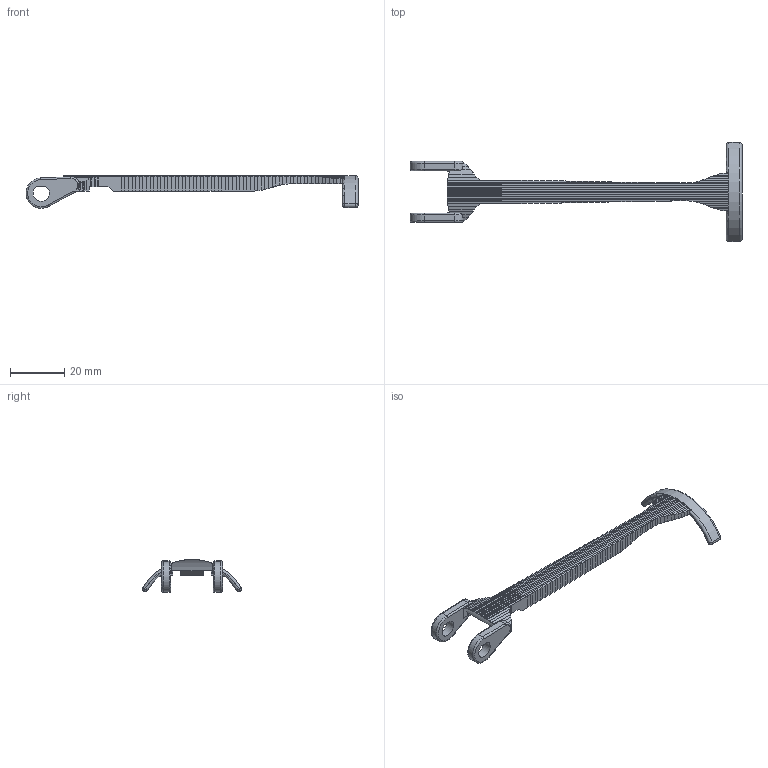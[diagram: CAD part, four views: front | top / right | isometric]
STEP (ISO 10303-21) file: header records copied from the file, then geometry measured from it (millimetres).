
FILE_DESCRIPTION(('Open CASCADE Model'),'2;1');
FILE_NAME('Open CASCADE Shape Model','2026-11-11T07:15:17',('Author'),( 'Open CASCADE'),'Open CASCADE STEP processor 8.0','build123d', 'Unknown');
FILE_SCHEMA(('AUTOMOTIVE_DESIGN { 1 0 10303 214 1 1 1 1 }'));
Length unit declared in the file: millimetre
Products named in the file (1): COMPOUND
Bounding box: 121.9 x 36.38 x 12.1 mm (x, y, z)
Volume: 4087.8 mm3; surface area: 4905.6 mm2
Topology: 1 solids, 1 shells, 468 faces, 1366 edges, 892 vertices
Faces by surface type: plane 416, cylinder 28, torus 16, sphere 8
Entity records: 33230 total; most frequent: CARTESIAN_POINT 8733, DIRECTION 3686, ORIENTED_EDGE 2716, PCURVE 2716, DEFINITIONAL_REPRESENTATION 2716, LINE 2454, VECTOR 2454, B_SPLINE_CURVE_WITH_KNOTS 1436
